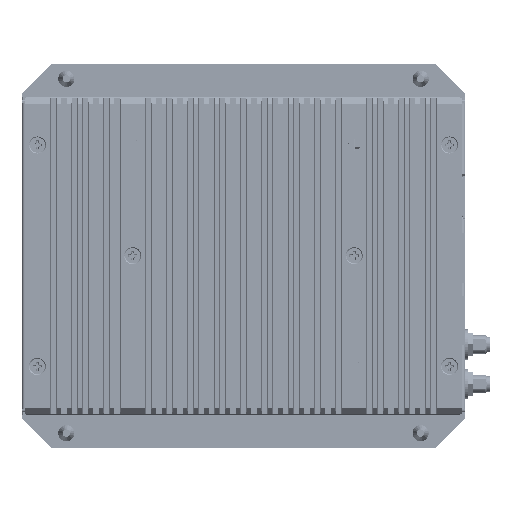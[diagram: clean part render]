
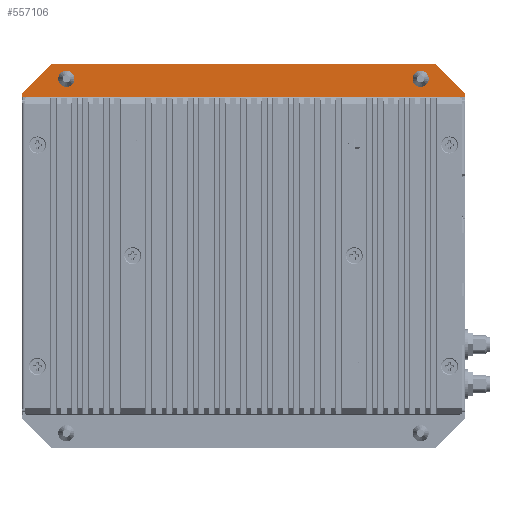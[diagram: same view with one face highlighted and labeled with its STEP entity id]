
A CAD part, top view. The second image highlights one B-rep face of the part: STEP entity #557106.
In plain terms, the highlighted planar face has unit normal (0, 0, 1).
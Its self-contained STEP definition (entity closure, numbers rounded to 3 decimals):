
#166707=CARTESIAN_POINT('',(-73.5,63.4,-26.005));
#166708=DIRECTION('',(0.,0.,1.));
#166709=DIRECTION('',(0.,1.,0.));
#166710=AXIS2_PLACEMENT_3D('',#166707,#166708,#166709);
#166712=CARTESIAN_POINT('',(-73.5,63.4,-26.005));
#166713=DIRECTION('',(0.,0.,1.));
#166714=DIRECTION('',(0.,-1.,0.));
#166715=AXIS2_PLACEMENT_3D('',#166712,#166713,#166714);
#166727=CARTESIAN_POINT('',(46.5,63.4,-26.005));
#166728=DIRECTION('',(0.,0.,1.));
#166729=DIRECTION('',(0.,1.,0.));
#166730=AXIS2_PLACEMENT_3D('',#166727,#166728,#166729);
#166732=CARTESIAN_POINT('',(46.5,63.4,-26.005));
#166733=DIRECTION('',(0.,0.,1.));
#166734=DIRECTION('',(0.,-1.,0.));
#166735=AXIS2_PLACEMENT_3D('',#166732,#166733,#166734);
#166747=CARTESIAN_POINT('',(-88.,57.7,-26.005));
#166748=DIRECTION('',(0.,0.,-1.));
#166749=DIRECTION('',(-0.6,-0.8,0.));
#166750=AXIS2_PLACEMENT_3D('',#166747,#166748,#166749);
#166752=CARTESIAN_POINT('',(-87.5,57.986,-26.005));
#166753=DIRECTION('',(0.,0.,-1.));
#166754=DIRECTION('',(-1.,0.,0.));
#166755=AXIS2_PLACEMENT_3D('',#166752,#166753,#166754);
#166757=DIRECTION('',(0.707,0.707,0.));
#166758=VECTOR('',#166757,13.314);
#166759=CARTESIAN_POINT('',(-88.207,58.693,-26.005));
#166760=LINE('',#166759,#166758);
#166761=CARTESIAN_POINT('',(-78.086,67.4,-26.005));
#166762=DIRECTION('',(0.,0.,-1.));
#166763=DIRECTION('',(-0.707,0.707,0.));
#166764=AXIS2_PLACEMENT_3D('',#166761,#166762,#166763);
#166766=CARTESIAN_POINT('',(51.086,67.4,-26.005));
#166767=DIRECTION('',(0.,0.,-1.));
#166768=DIRECTION('',(0.,1.,0.));
#166769=AXIS2_PLACEMENT_3D('',#166766,#166767,#166768);
#166771=DIRECTION('',(0.707,-0.707,0.));
#166772=VECTOR('',#166771,13.314);
#166773=CARTESIAN_POINT('',(51.793,68.107,-26.005));
#166774=LINE('',#166773,#166772);
#166775=CARTESIAN_POINT('',(60.5,57.986,-26.005));
#166776=DIRECTION('',(0.,0.,-1.));
#166777=DIRECTION('',(0.707,0.707,0.));
#166778=AXIS2_PLACEMENT_3D('',#166775,#166776,#166777);
#166780=CARTESIAN_POINT('',(61.,57.7,-26.005));
#166781=DIRECTION('',(0.,0.,-1.));
#166782=DIRECTION('',(1.,0.,0.));
#166783=AXIS2_PLACEMENT_3D('',#166780,#166781,#166782);
#171003=DIRECTION('',(0.,1.,0.));
#171004=VECTOR('',#171003,0.286);
#171005=CARTESIAN_POINT('',(-88.5,57.7,-26.005));
#171006=LINE('',#171005,#171004);
#171027=DIRECTION('',(1.,0.,0.));
#171028=VECTOR('',#171027,129.172);
#171029=CARTESIAN_POINT('',(-78.086,68.4,-26.005));
#171030=LINE('',#171029,#171028);
#171055=DIRECTION('',(0.,-1.,0.));
#171056=VECTOR('',#171055,0.286);
#171057=CARTESIAN_POINT('',(61.5,57.986,-26.005));
#171058=LINE('',#171057,#171056);
#172151=DIRECTION('',(-1.,0.,0.));
#172152=VECTOR('',#172151,149.6);
#172153=CARTESIAN_POINT('',(61.3,57.3,-26.005));
#172154=LINE('',#172153,#172152);
#204747=CARTESIAN_POINT('',(61.5,57.986,-26.005));
#204748=CARTESIAN_POINT('',(61.5,57.7,-26.005));
#204749=VERTEX_POINT('',#204747);
#204750=VERTEX_POINT('',#204748);
#204751=CARTESIAN_POINT('',(61.207,58.693,-26.005));
#204752=VERTEX_POINT('',#204751);
#204753=CARTESIAN_POINT('',(51.793,68.107,-26.005));
#204754=VERTEX_POINT('',#204753);
#204755=CARTESIAN_POINT('',(51.086,68.4,-26.005));
#204756=VERTEX_POINT('',#204755);
#204757=CARTESIAN_POINT('',(-78.086,68.4,-26.005));
#204758=VERTEX_POINT('',#204757);
#204759=CARTESIAN_POINT('',(-78.793,68.107,-26.005));
#204760=VERTEX_POINT('',#204759);
#204761=CARTESIAN_POINT('',(-88.207,58.693,-26.005));
#204762=VERTEX_POINT('',#204761);
#204763=CARTESIAN_POINT('',(-88.5,57.986,-26.005));
#204764=VERTEX_POINT('',#204763);
#204765=CARTESIAN_POINT('',(-88.5,57.7,-26.005));
#204766=VERTEX_POINT('',#204765);
#205157=CARTESIAN_POINT('',(-73.5,65.65,-26.005));
#205158=CARTESIAN_POINT('',(-73.5,61.15,-26.005));
#205159=VERTEX_POINT('',#205157);
#205160=VERTEX_POINT('',#205158);
#205165=CARTESIAN_POINT('',(46.5,65.65,-26.005));
#205166=CARTESIAN_POINT('',(46.5,61.15,-26.005));
#205167=VERTEX_POINT('',#205165);
#205168=VERTEX_POINT('',#205166);
#260266=CARTESIAN_POINT('',(61.3,57.3,-26.005));
#260267=CARTESIAN_POINT('',(-88.3,57.3,-26.005));
#260268=VERTEX_POINT('',#260266);
#260269=VERTEX_POINT('',#260267);
#557063=CARTESIAN_POINT('',(-13.5,3.4,-26.005));
#557064=DIRECTION('',(0.,0.,1.));
#557065=DIRECTION('',(1.,0.,0.));
#557066=AXIS2_PLACEMENT_3D('',#557063,#557064,#557065);
#557067=PLANE('',#557066);
#557069=ORIENTED_EDGE('',*,*,#557068,.T.);
#557071=ORIENTED_EDGE('',*,*,#557070,.T.);
#557073=ORIENTED_EDGE('',*,*,#557072,.T.);
#557075=ORIENTED_EDGE('',*,*,#557074,.T.);
#557077=ORIENTED_EDGE('',*,*,#557076,.T.);
#557079=ORIENTED_EDGE('',*,*,#557078,.T.);
#557081=ORIENTED_EDGE('',*,*,#557080,.T.);
#557083=ORIENTED_EDGE('',*,*,#557082,.T.);
#557085=ORIENTED_EDGE('',*,*,#557084,.T.);
#557087=ORIENTED_EDGE('',*,*,#557086,.T.);
#557089=ORIENTED_EDGE('',*,*,#557088,.T.);
#557091=ORIENTED_EDGE('',*,*,#557090,.T.);
#557092=EDGE_LOOP('',(#557069,#557071,#557073,#557075,#557077,#557079,#557081,
#557083,#557085,#557087,#557089,#557091));
#557093=FACE_OUTER_BOUND('',#557092,.F.);
#557095=ORIENTED_EDGE('',*,*,#557094,.T.);
#557097=ORIENTED_EDGE('',*,*,#557096,.T.);
#557098=EDGE_LOOP('',(#557095,#557097));
#557099=FACE_BOUND('',#557098,.F.);
#557101=ORIENTED_EDGE('',*,*,#557100,.T.);
#557103=ORIENTED_EDGE('',*,*,#557102,.T.);
#557104=EDGE_LOOP('',(#557101,#557103));
#557105=FACE_BOUND('',#557104,.F.);
#557106=ADVANCED_FACE('',(#557093,#557099,#557105),#557067,.T.);
#166711=CIRCLE('',#166710,2.25);
#166716=CIRCLE('',#166715,2.25);
#166731=CIRCLE('',#166730,2.25);
#166736=CIRCLE('',#166735,2.25);
#166751=CIRCLE('',#166750,0.5);
#166756=CIRCLE('',#166755,1.);
#166765=CIRCLE('',#166764,1.);
#166770=CIRCLE('',#166769,1.);
#166779=CIRCLE('',#166778,1.);
#166784=CIRCLE('',#166783,0.5);
#557068=EDGE_CURVE('',#260268,#260269,#172154,.T.);
#557070=EDGE_CURVE('',#260269,#204766,#166751,.T.);
#557072=EDGE_CURVE('',#204766,#204764,#171006,.T.);
#557074=EDGE_CURVE('',#204764,#204762,#166756,.T.);
#557076=EDGE_CURVE('',#204762,#204760,#166760,.T.);
#557078=EDGE_CURVE('',#204760,#204758,#166765,.T.);
#557080=EDGE_CURVE('',#204758,#204756,#171030,.T.);
#557082=EDGE_CURVE('',#204756,#204754,#166770,.T.);
#557084=EDGE_CURVE('',#204754,#204752,#166774,.T.);
#557086=EDGE_CURVE('',#204752,#204749,#166779,.T.);
#557088=EDGE_CURVE('',#204749,#204750,#171058,.T.);
#557090=EDGE_CURVE('',#204750,#260268,#166784,.T.);
#557094=EDGE_CURVE('',#205159,#205160,#166711,.T.);
#557096=EDGE_CURVE('',#205160,#205159,#166716,.T.);
#557100=EDGE_CURVE('',#205167,#205168,#166731,.T.);
#557102=EDGE_CURVE('',#205168,#205167,#166736,.T.);
